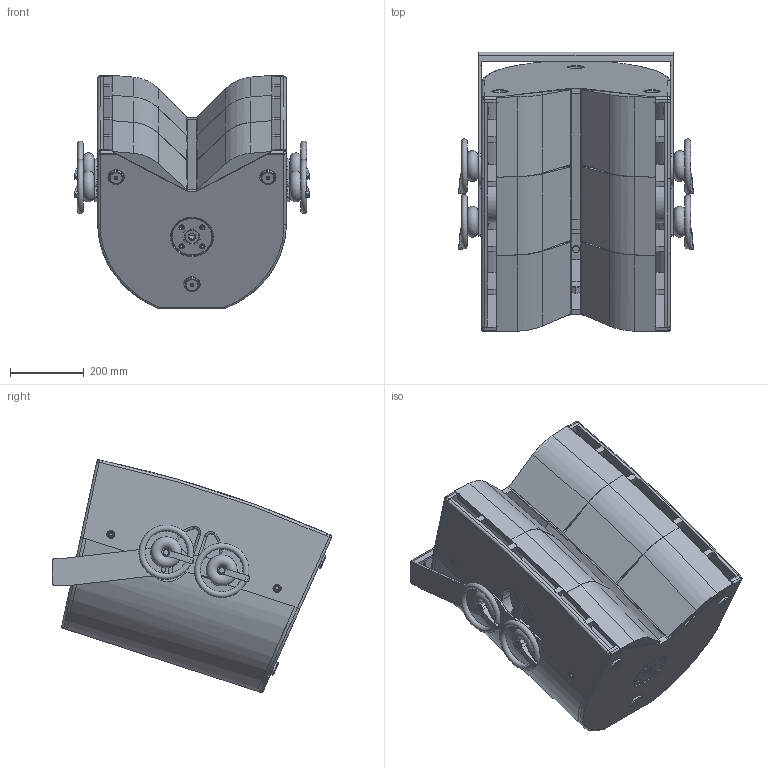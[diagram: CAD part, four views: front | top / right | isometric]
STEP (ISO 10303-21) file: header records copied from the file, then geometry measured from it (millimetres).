
FILE_DESCRIPTION (( 'STEP AP203' ), '1' );
FILE_NAME ('G3_Bracket-ver01.STEP', '2012-10-16T11:13:43', ( 'Fabian' ), ( '' ), 'SwSTEP 2.0', 'SolidWorks 2009', '' );
FILE_SCHEMA (( 'CONFIG_CONTROL_DESIGN' ));
Length unit declared in the file: millimetre
Products named in the file (30): Imported2; Imported1; Imported7; Imported8; Imported13; Imported15; Imported14; Imported20; Imported21; Imported27; Imported26; G3_Bracket-ver01; G3_Bracket-ver02; Imported; Imported3; Imported4; Imported5; Imported6; Imported9; Imported10; Imported11; Imported12; Imported16; Imported17; Imported18; Imported19; Imported22; Imported23; Imported24; Imported25
Assembly tree (29 placements, depth 3):
  G3_Bracket-ver01
    G3_Bracket-ver02
      Imported16
      Imported24
      Imported
      Imported21
      Imported26
      Imported8
      Imported14
      Imported7
      Imported17
      Imported22
      Imported25
      Imported20
      Imported4
      Imported13
      Imported27
      Imported1
      Imported3
      Imported9
      Imported18
      Imported2
      Imported5
      Imported11
      Imported19
      Imported23
      Imported12
      Imported6
      Imported10
      Imported15
Bounding box: 635.25 x 759.81 x 633.14 mm (x, y, z)
Volume: 8722095.2 mm3; surface area: 4329990 mm2
Topology: 35 solids, 38 shells, 1076 faces, 2788 edges, 1808 vertices
Faces by surface type: plane 410, cylinder 401, cone 150, torus 100, bspline 8, sphere 7
Entity records: 50404 total; most frequent: CARTESIAN_POINT 21266, ORIENTED_EDGE 5518, DIRECTION 5288, EDGE_CURVE 2761, AXIS2_PLACEMENT_3D 2004, VERTEX_POINT 1795, LINE 1280, VECTOR 1280
